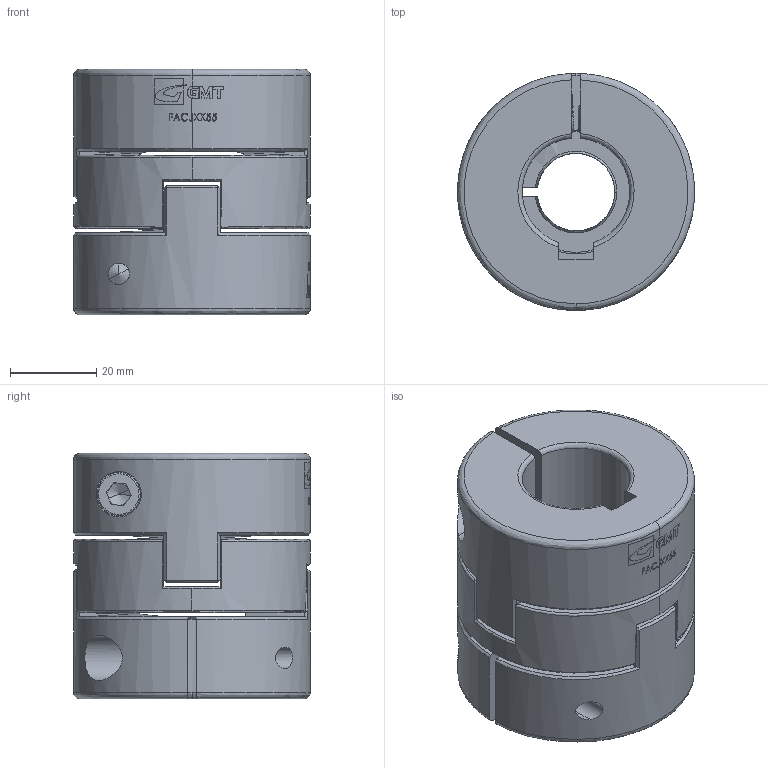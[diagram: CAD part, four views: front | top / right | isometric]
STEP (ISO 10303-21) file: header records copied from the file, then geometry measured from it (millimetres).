
FILE_DESCRIPTION (( 'STEP AP203' ), '1' );
FILE_NAME ('FACJRK55.STEP', '2008-04-04T08:51:30', ( '陳志豪' ), ( '高明鐵企業股份有限公司' ), 'SwSTEP 2.0', 'SolidWorks 2007', '' );
FILE_SCHEMA (( 'CONFIG_CONTROL_DESIGN' ));
Length unit declared in the file: millimetre
Products named in the file (1): FACJRK55
Bounding box: 55 x 55 x 57 mm (x, y, z)
Surface area: 27747.1 mm2 (no closed solid volume)
Topology: 0 solids, 7 shells, 282 faces, 951 edges, 677 vertices
Faces by surface type: plane 128, bspline 65, cylinder 56, cone 33
Entity records: 15298 total; most frequent: CARTESIAN_POINT 8316, ORIENTED_EDGE 1783, EDGE_CURVE 936, DIRECTION 850, VERTEX_POINT 669, B_SPLINE_CURVE_WITH_KNOTS 590, EDGE_LOOP 316, AXIS2_PLACEMENT_3D 296
